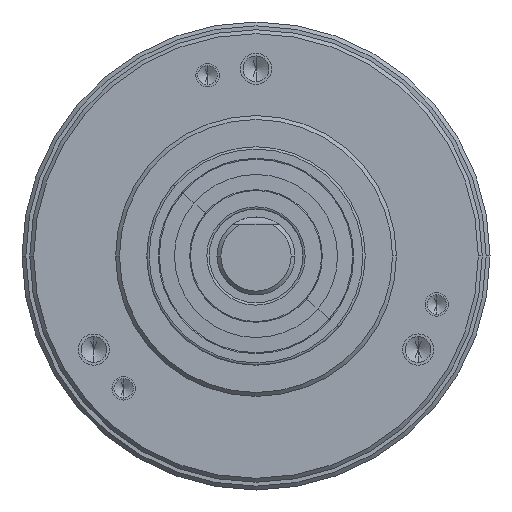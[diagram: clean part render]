
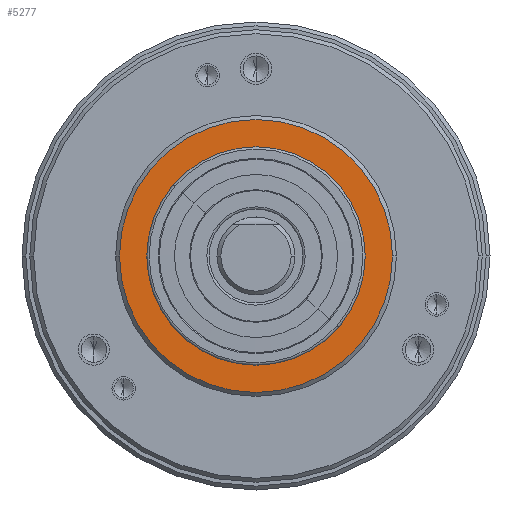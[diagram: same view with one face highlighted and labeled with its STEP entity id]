
A CAD part, front view. The second image highlights one B-rep face of the part: STEP entity #5277.
In plain terms, the highlighted planar face has unit normal (0, -1, 0).
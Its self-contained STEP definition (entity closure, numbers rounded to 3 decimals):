
#301 = CARTESIAN_POINT ( 'NONE',  ( -17.5, 0., 0. ) ) ;
#330 = DIRECTION ( 'NONE',  ( 1., 0., 0. ) ) ;
#331 = DIRECTION ( 'NONE',  ( 0., -1., 0. ) ) ;
#332 = CARTESIAN_POINT ( 'NONE',  ( 0., 0., 0. ) ) ;
#333 = AXIS2_PLACEMENT_3D ( 'NONE', #332, #331, #330 ) ;
#334 = CIRCLE ( 'NONE', #333, 17.5 ) ;
#335 = CARTESIAN_POINT ( 'NONE',  ( 17.5, 0., 0. ) ) ;
#1233 = CARTESIAN_POINT ( 'NONE',  ( 0., 0., 0. ) ) ;
#1234 = AXIS2_PLACEMENT_3D ( 'NONE', #1233, #1237, #1236 ) ;
#1235 = CIRCLE ( 'NONE', #1234, 17.5 ) ;
#1236 = DIRECTION ( 'NONE',  ( 1., 0., 0. ) ) ;
#1237 = DIRECTION ( 'NONE',  ( 0., -1., 0. ) ) ;
#1321 = FACE_OUTER_BOUND ( 'NONE', #5369, .T. ) ;
#1325 = FACE_BOUND ( 'NONE', #5348, .T. ) ;
#1331 = DIRECTION ( 'NONE',  ( 0., -1., 0. ) ) ;
#1332 = AXIS2_PLACEMENT_3D ( 'NONE', #1333, #1331, #1357 ) ;
#1333 = CARTESIAN_POINT ( 'NONE',  ( 0., 0., 0. ) ) ;
#1334 = PLANE ( 'NONE',  #1332 ) ;
#1357 = DIRECTION ( 'NONE',  ( 1., 0., 0. ) ) ;
#1383 = DIRECTION ( 'NONE',  ( 1., 0., 0. ) ) ;
#1384 = DIRECTION ( 'NONE',  ( 0., -1., 0. ) ) ;
#1385 = CARTESIAN_POINT ( 'NONE',  ( 0., 0., 0. ) ) ;
#1386 = AXIS2_PLACEMENT_3D ( 'NONE', #1385, #1384, #1383 ) ;
#1387 = CIRCLE ( 'NONE', #1386, 14. ) ;
#3942 = CARTESIAN_POINT ( 'NONE',  ( 14., 0., 0. ) ) ;
#3943 = CARTESIAN_POINT ( 'NONE',  ( -14., 0., 0. ) ) ;
#3975 = DIRECTION ( 'NONE',  ( 1., 0., 0. ) ) ;
#3976 = DIRECTION ( 'NONE',  ( 0., -1., 0. ) ) ;
#3977 = CARTESIAN_POINT ( 'NONE',  ( 0., 0., 0. ) ) ;
#3978 = AXIS2_PLACEMENT_3D ( 'NONE', #3977, #3976, #3975 ) ;
#3979 = CIRCLE ( 'NONE', #3978, 14. ) ;
#4996 = EDGE_CURVE ( 'NONE', #4997, #4998, #334, .T. ) ;
#4997 = VERTEX_POINT ( 'NONE', #335 ) ;
#4998 = VERTEX_POINT ( 'NONE', #301 ) ;
#5232 = EDGE_CURVE ( 'NONE', #4998, #4997, #1235, .T. ) ;
#5263 = ORIENTED_EDGE ( 'NONE', *, *, #4996, .T. ) ;
#5277 = ADVANCED_FACE ( 'NONE', ( #1321, #1325 ), #1334, .T. ) ;
#5307 = ORIENTED_EDGE ( 'NONE', *, *, #5308, .F. ) ;
#5308 = EDGE_CURVE ( 'NONE', #6039, #6038, #1387, .T. ) ;
#5321 = ORIENTED_EDGE ( 'NONE', *, *, #6136, .F. ) ;
#5348 = EDGE_LOOP ( 'NONE', ( #5307, #5321 ) ) ;
#5360 = ORIENTED_EDGE ( 'NONE', *, *, #5232, .T. ) ;
#5369 = EDGE_LOOP ( 'NONE', ( #5360, #5263 ) ) ;
#6038 = VERTEX_POINT ( 'NONE', #3943 ) ;
#6039 = VERTEX_POINT ( 'NONE', #3942 ) ;
#6136 = EDGE_CURVE ( 'NONE', #6038, #6039, #3979, .T. ) ;
